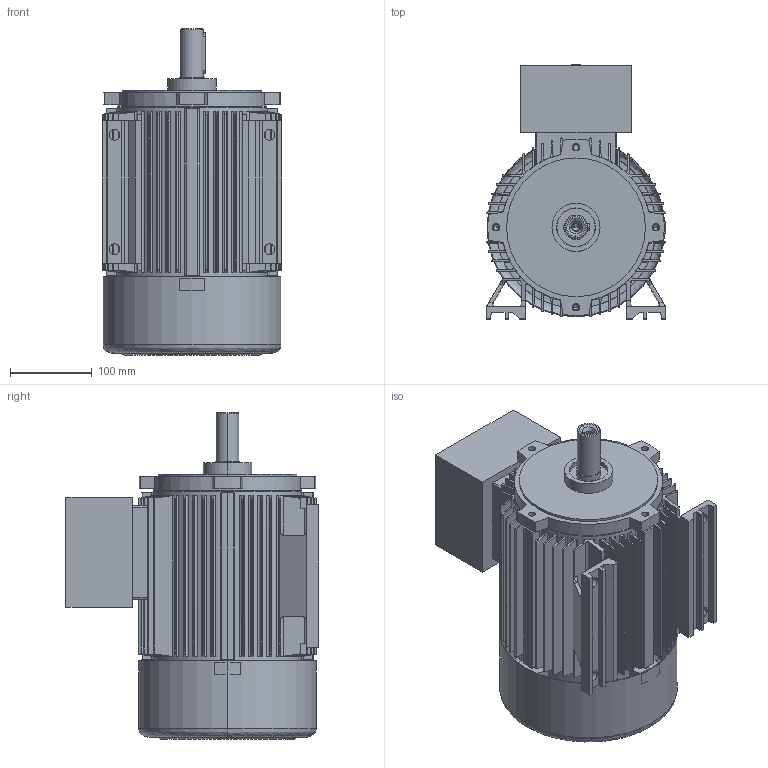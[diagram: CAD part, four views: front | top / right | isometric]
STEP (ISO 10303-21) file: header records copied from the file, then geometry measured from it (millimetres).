
FILE_DESCRIPTION (( 'STEP AP214' ), '1' );
FILE_NAME ('20.17501-A 5AT 112 B3 Exde STANDK.STEP', '2018-05-11T09:33:28', ( '' ), ( '' ), 'SwSTEP 2.0', 'SolidWorks 2017', '' );
FILE_SCHEMA (( 'AUTOMOTIVE_DESIGN' ));
Length unit declared in the file: millimetre
Products named in the file (1): 20.17501-A 5AT 112 B3 Exde STANDK
Bounding box: 220 x 311 x 399.8 mm (x, y, z)
Volume: 5342704.9 mm3; surface area: 1081974.2 mm2
Topology: 4 solids, 5 shells, 776 faces, 2021 edges, 1325 vertices
Faces by surface type: cylinder 337, plane 313, cone 112, bspline 14
Entity records: 34224 total; most frequent: CARTESIAN_POINT 8946, ORIENTED_EDGE 4010, DIRECTION 3600, EDGE_CURVE 2005, VERTEX_POINT 1325, AXIS2_PLACEMENT_3D 1314, VECTOR 972, LINE 972
